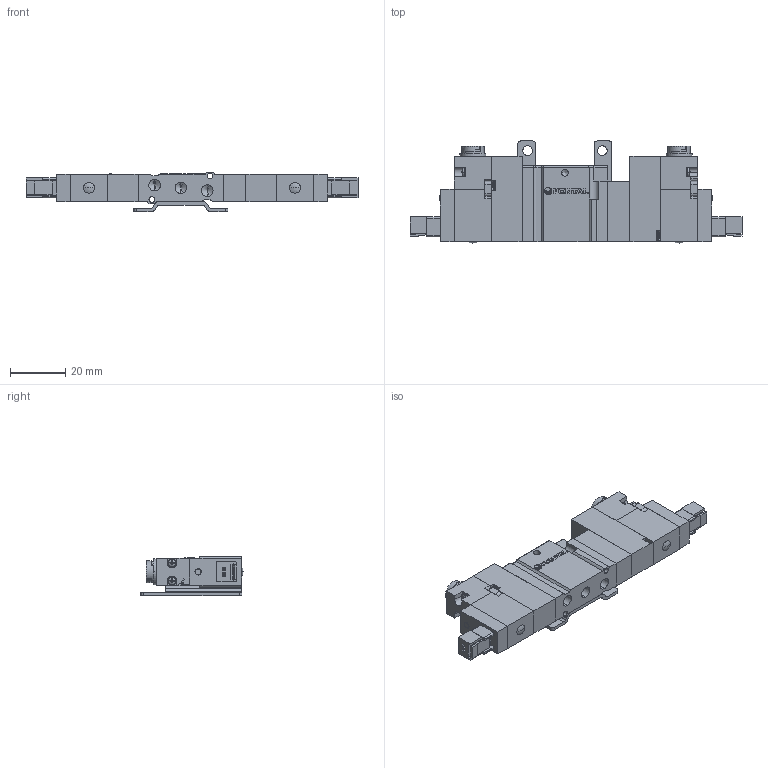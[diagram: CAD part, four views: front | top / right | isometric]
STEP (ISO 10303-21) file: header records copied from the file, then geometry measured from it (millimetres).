
FILE_DESCRIPTION (( 'STEP AP203' ), '1' );
FILE_NAME ('A05RD(E¡BO)35#-BS-#-#-E.STEP', '2016-02-04T02:05:50', ( 'Sam Lin' ), ( '' ), 'SwSTEP 2.0', 'SolidWorks 2013', '' );
FILE_SCHEMA (( 'CONFIG_CONTROL_DESIGN' ));
Length unit declared in the file: metre
Products named in the file (15): A05RS25-9; A05RS25-2; A05RS25-10; ISO 7045 - M1.6 x 10; mark-ADEX-A05RS; A05RS25-3; A05RS25-13; A05RS25-4; A05RS25-12; A05RS25-5; A05RD(E、O)35#-BS-#-#-E; A05RS25-6; A05RS25-7; A05RS25-8; A05RS25-#-#-#
Assembly tree (32 placements, depth 2):
  A05RD(E、O)35#-BS-#-#-E
    A05RS25-#-#-#
    A05RS25-2  x2
    ISO 7045 - M1.6 x 10  x8
    A05RS25-3  x2
    A05RS25-4  x2
    A05RS25-5  x2
    A05RS25-6  x4
    A05RS25-7  x2
    A05RS25-8  x2
    A05RS25-9  x2
    A05RS25-10  x2
    mark-ADEX-A05RS
    A05RS25-13
    A05RS25-12
Bounding box: 120 x 36.9 x 14.4 mm (x, y, z)
Volume: 26774.4 mm3; surface area: 19717.3 mm2
Topology: 40 solids, 40 shells, 1041 faces, 2638 edges, 1677 vertices
Faces by surface type: plane 663, cylinder 212, cone 92, bspline 74
Entity records: 17681 total; most frequent: CARTESIAN_POINT 3536, ORIENTED_EDGE 2506, DIRECTION 2479, EDGE_CURVE 1253, LINE 869, VECTOR 869, VERTEX_POINT 818, AXIS2_PLACEMENT_3D 805
